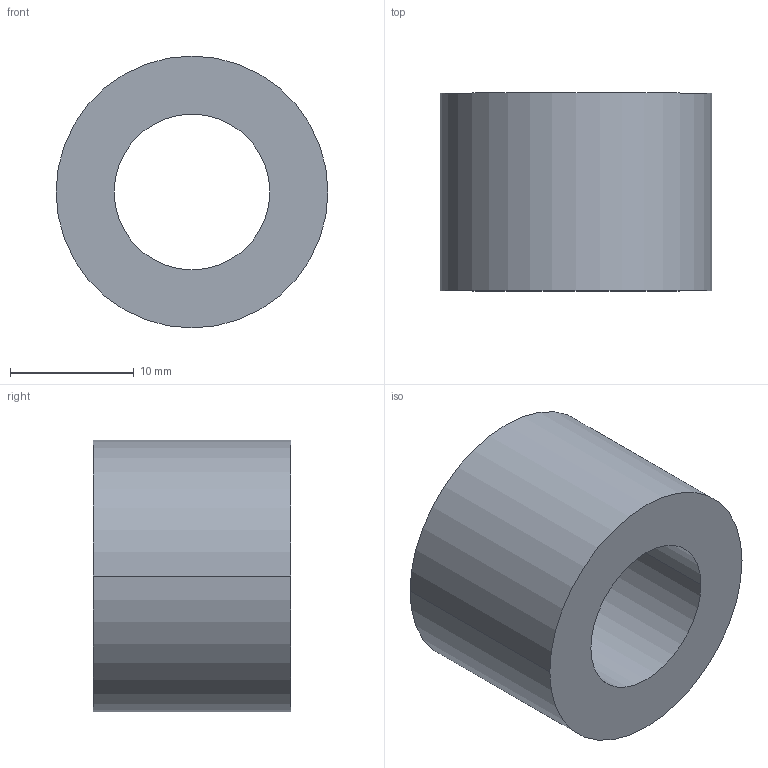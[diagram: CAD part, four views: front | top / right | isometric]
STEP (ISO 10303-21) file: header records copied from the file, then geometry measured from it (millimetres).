
FILE_DESCRIPTION (( 'STEP AP203' ), '1' );
FILE_NAME ('Default.step', '2019-01-23T22:12:56', ( '' ), ( '' ), 'SwSTEP 2.0', 'SolidWorks 2017', '' );
FILE_SCHEMA (( 'CONFIG_CONTROL_DESIGN' ));
Length unit declared in the file: millimetre
Products named in the file (1): Default
Bounding box: 22 x 16 x 22 mm (x, y, z)
Volume: 4050.7 mm3; surface area: 2217.9 mm2
Topology: 1 solids, 1 shells, 8 faces, 16 edges, 10 vertices
Faces by surface type: cylinder 4, torus 2, plane 2
Entity records: 297 total; most frequent: DIRECTION 46, CARTESIAN_POINT 35, ORIENTED_EDGE 32, AXIS2_PLACEMENT_3D 21, EDGE_CURVE 16, CIRCLE 12, EDGE_LOOP 10, VERTEX_POINT 10
